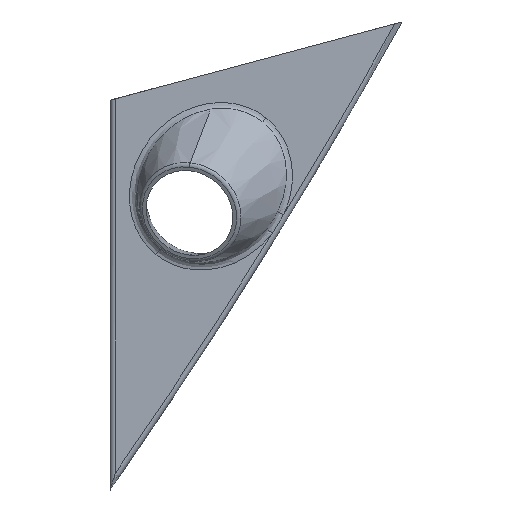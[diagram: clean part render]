
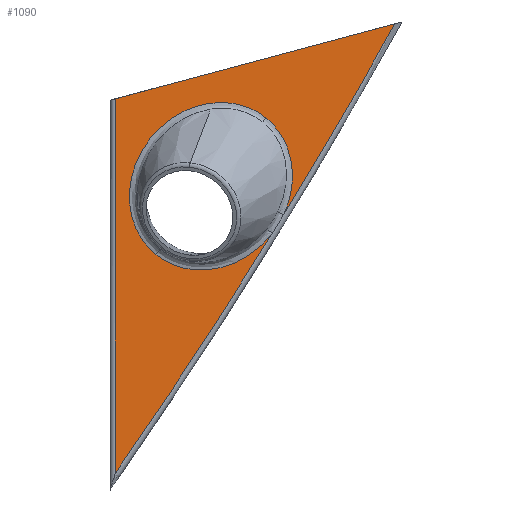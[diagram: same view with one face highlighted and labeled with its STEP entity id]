
A CAD part, front view. The second image highlights one B-rep face of the part: STEP entity #1090.
In plain terms, the highlighted planar face has unit normal (0, -1, 0).
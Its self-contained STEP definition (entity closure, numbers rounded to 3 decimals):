
#6 = VERTEX_POINT ( 'NONE', #584 ) ;
#24 =( BOUNDED_CURVE ( )  B_SPLINE_CURVE ( 3, ( #632, #366, #645, #653 ),
 .UNSPECIFIED., .F., .T. ) 
 B_SPLINE_CURVE_WITH_KNOTS ( ( 4, 4 ),
 ( 3.142, 6.283 ),
 .UNSPECIFIED. ) 
 CURVE ( )  GEOMETRIC_REPRESENTATION_ITEM ( )  RATIONAL_B_SPLINE_CURVE ( ( 1., 0.333, 0.333, 1. ) ) 
 REPRESENTATION_ITEM ( '' )  );
#33 = ORIENTED_EDGE ( 'NONE', *, *, #548, .T. ) ;
#70 = CARTESIAN_POINT ( 'NONE',  ( -1639.507, 0., 998.433 ) ) ;
#97 = DIRECTION ( 'NONE',  ( 0., -1., 0. ) ) ;
#105 = CARTESIAN_POINT ( 'NONE',  ( 107.43, 0., 28.786 ) ) ;
#121 = CARTESIAN_POINT ( 'NONE',  ( 17.338, 0., -58.263 ) ) ;
#175 = DIRECTION ( 'NONE',  ( 0.966, 0., 0.259 ) ) ;
#188 = AXIS2_PLACEMENT_3D ( 'NONE', #397, #1217, #1350 ) ;
#189 = CARTESIAN_POINT ( 'NONE',  ( 65.476, 0., -43.218 ) ) ;
#211 = VERTEX_POINT ( 'NONE', #1723 ) ;
#216 = DIRECTION ( 'NONE',  ( 0., -1., 0. ) ) ;
#230 = EDGE_CURVE ( 'NONE', #1389, #211, #1604, .T. ) ;
#254 = PLANE ( 'NONE',  #188 ) ;
#268 = EDGE_CURVE ( 'NONE', #6, #409, #997, .T. ) ;
#270 = VECTOR ( 'NONE', #175, 1000. ) ;
#301 = VERTEX_POINT ( 'NONE', #798 ) ;
#309 = VECTOR ( 'NONE', #1651, 1000. ) ;
#339 = VERTEX_POINT ( 'NONE', #105 ) ;
#361 =( BOUNDED_CURVE ( )  B_SPLINE_CURVE ( 3, ( #795, #1458, #654, #1162 ),
 .UNSPECIFIED., .F., .F. ) 
 B_SPLINE_CURVE_WITH_KNOTS ( ( 4, 4 ),
 ( 1.553, 3.142 ),
 .UNSPECIFIED. ) 
 CURVE ( )  GEOMETRIC_REPRESENTATION_ITEM ( )  RATIONAL_B_SPLINE_CURVE ( ( 1., 0.801, 0.801, 1. ) ) 
 REPRESENTATION_ITEM ( '' )  );
#366 = CARTESIAN_POINT ( 'NONE',  ( -28.118, 0., -21.748 ) ) ;
#396 = AXIS2_PLACEMENT_3D ( 'NONE', #70, #216, #1163 ) ;
#397 = CARTESIAN_POINT ( 'NONE',  ( -1639.507, 0., 998.433 ) ) ;
#409 = VERTEX_POINT ( 'NONE', #189 ) ;
#537 = ORIENTED_EDGE ( 'NONE', *, *, #230, .T. ) ;
#548 = EDGE_CURVE ( 'NONE', #409, #339, #913, .T. ) ;
#584 = CARTESIAN_POINT ( 'NONE',  ( 58.786, 0., -6.665 ) ) ;
#587 = ORIENTED_EDGE ( 'NONE', *, *, #1620, .T. ) ;
#632 = CARTESIAN_POINT ( 'NONE',  ( 17.338, 0., -58.263 ) ) ;
#645 = CARTESIAN_POINT ( 'NONE',  ( 13.329, 0., 29.85 ) ) ;
#653 = CARTESIAN_POINT ( 'NONE',  ( 58.786, 0., -6.665 ) ) ;
#654 = CARTESIAN_POINT ( 'NONE',  ( 30.838, 0., -69.106 ) ) ;
#795 = CARTESIAN_POINT ( 'NONE',  ( 61.15, 0., -50.266 ) ) ;
#798 = CARTESIAN_POINT ( 'NONE',  ( 2., 0., 0.536 ) ) ;
#853 = FACE_OUTER_BOUND ( 'NONE', #1633, .T. ) ;
#867 = ORIENTED_EDGE ( 'NONE', *, *, #1487, .T. ) ;
#901 = CARTESIAN_POINT ( 'NONE',  ( 69.419, 0., -15.206 ) ) ;
#913 = CIRCLE ( 'NONE', #1600, 1998. ) ;
#918 = EDGE_CURVE ( 'NONE', #301, #339, #1728, .T. ) ;
#997 =( BOUNDED_CURVE ( )  B_SPLINE_CURVE ( 3, ( #1296, #901, #1459, #1052 ),
 .UNSPECIFIED., .F., .F. ) 
 B_SPLINE_CURVE_WITH_KNOTS ( ( 4, 4 ),
 ( 0., 1.302 ),
 .UNSPECIFIED. ) 
 CURVE ( )  GEOMETRIC_REPRESENTATION_ITEM ( )  RATIONAL_B_SPLINE_CURVE ( ( 1., 0.864, 0.864, 1. ) ) 
 REPRESENTATION_ITEM ( '' )  );
#1046 = CARTESIAN_POINT ( 'NONE',  ( 2., 0., -140.627 ) ) ;
#1052 = CARTESIAN_POINT ( 'NONE',  ( 65.476, 0., -43.218 ) ) ;
#1066 = VERTEX_POINT ( 'NONE', #121 ) ;
#1090 = ADVANCED_FACE ( 'NONE', ( #853 ), #254, .F. ) ;
#1103 = ORIENTED_EDGE ( 'NONE', *, *, #1127, .T. ) ;
#1114 = CARTESIAN_POINT ( 'NONE',  ( 0., 0., 0. ) ) ;
#1126 = ORIENTED_EDGE ( 'NONE', *, *, #918, .F. ) ;
#1127 = EDGE_CURVE ( 'NONE', #301, #1389, #1481, .T. ) ;
#1162 = CARTESIAN_POINT ( 'NONE',  ( 17.338, 0., -58.263 ) ) ;
#1163 = DIRECTION ( 'NONE',  ( 0., 0., 1. ) ) ;
#1217 = DIRECTION ( 'NONE',  ( 0., 1., 0. ) ) ;
#1218 = ORIENTED_EDGE ( 'NONE', *, *, #268, .T. ) ;
#1296 = CARTESIAN_POINT ( 'NONE',  ( 58.786, 0., -6.665 ) ) ;
#1350 = DIRECTION ( 'NONE',  ( 0., 0., 1. ) ) ;
#1389 = VERTEX_POINT ( 'NONE', #1046 ) ;
#1449 = CARTESIAN_POINT ( 'NONE',  ( -1639.507, 0., 998.433 ) ) ;
#1458 = CARTESIAN_POINT ( 'NONE',  ( 49.079, 0., -65.777 ) ) ;
#1459 = CARTESIAN_POINT ( 'NONE',  ( 72.001, 0., -29.315 ) ) ;
#1481 = LINE ( 'NONE', #1514, #309 ) ;
#1487 = EDGE_CURVE ( 'NONE', #1066, #6, #24, .T. ) ;
#1514 = CARTESIAN_POINT ( 'NONE',  ( 2., 0., 998.433 ) ) ;
#1600 = AXIS2_PLACEMENT_3D ( 'NONE', #1449, #97, #1614 ) ;
#1604 = CIRCLE ( 'NONE', #396, 1998. ) ;
#1614 = DIRECTION ( 'NONE',  ( 0., 0., 1. ) ) ;
#1620 = EDGE_CURVE ( 'NONE', #211, #1066, #361, .T. ) ;
#1633 = EDGE_LOOP ( 'NONE', ( #537, #587, #867, #1218, #33, #1126, #1103 ) ) ;
#1651 = DIRECTION ( 'NONE',  ( 0., 0., -1. ) ) ;
#1723 = CARTESIAN_POINT ( 'NONE',  ( 61.15, 0., -50.266 ) ) ;
#1728 = LINE ( 'NONE', #1114, #270 ) ;
